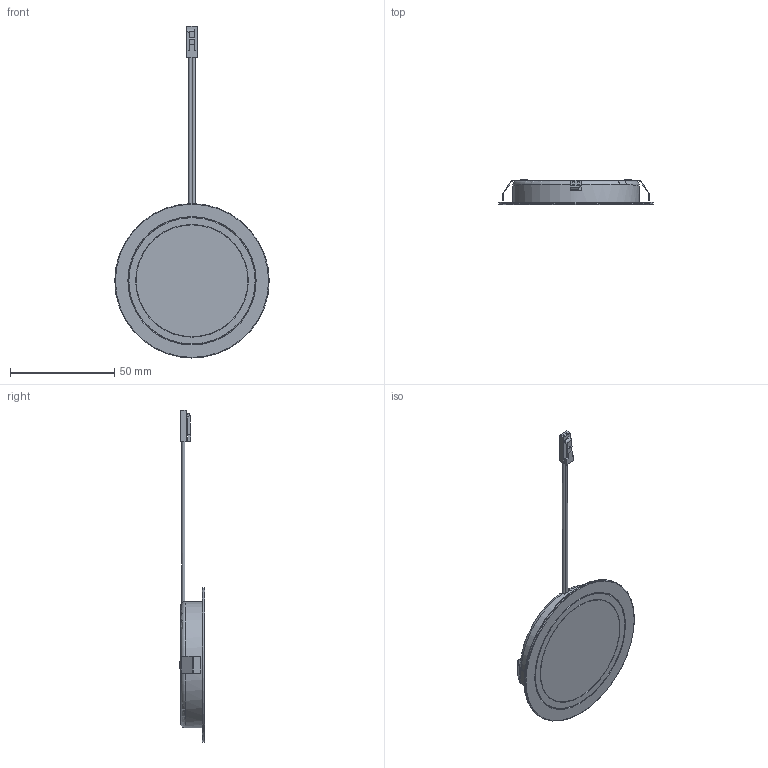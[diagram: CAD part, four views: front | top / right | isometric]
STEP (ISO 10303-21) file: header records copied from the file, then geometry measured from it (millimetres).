
FILE_DESCRIPTION(/* description */ (''),/* implementation_level */ '2;1');
FILE_NAME(/* name */ 'hcl-317_asm.stp',/* time_stamp */ '2019-06-03T10:02:38+02:00',/* author */ (''),/* organization */ (''),/* preprocessor_version */ 'ST-DEVELOPER v16.7',/* originating_system */ 'SIEMENS PLM Software NX 12.0',/* authorisation */ '');
FILE_SCHEMA (('AUTOMOTIVE_DESIGN { 1 0 10303 214 3 1 1 1 }'));
Length unit declared in the file: millimetre
Products named in the file (1): p.sc2314416Cicqd
Bounding box: 74 x 12.2 x 159.1 mm (x, y, z)
Volume: 35020.8 mm3; surface area: 12657.6 mm2
Topology: 1 solids, 1 shells, 104 faces, 266 edges, 174 vertices
Faces by surface type: plane 70, cylinder 26, torus 5, cone 3
Full cylindrical faces by diameter (mm): 1.5 x2, 54 x1, 60.6 x1, 74 x1
Entity records: 3171 total; most frequent: CARTESIAN_POINT 641, DIRECTION 518, ORIENTED_EDGE 500, EDGE_CURVE 250, LINE 174, VECTOR 174, AXIS2_PLACEMENT_3D 172, VERTEX_POINT 170
